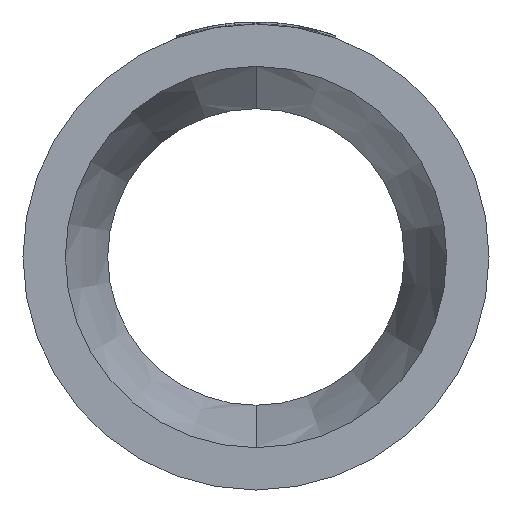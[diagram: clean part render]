
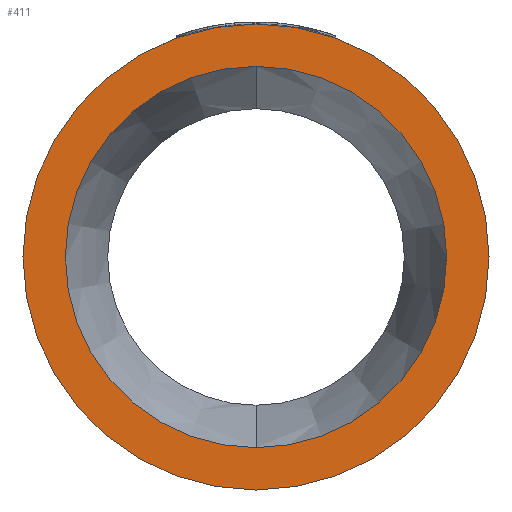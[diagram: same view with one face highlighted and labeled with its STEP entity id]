
A CAD part, left-side view. The second image highlights one B-rep face of the part: STEP entity #411.
In plain terms, the highlighted planar face has unit normal (-1, 0, 0).
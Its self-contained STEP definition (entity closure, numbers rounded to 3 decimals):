
#17 = AXIS2_PLACEMENT_3D ( 'NONE', #1688, #3456, #1672 ) ;
#106 = EDGE_LOOP ( 'NONE', ( #2943, #2965 ) ) ;
#253 = AXIS2_PLACEMENT_3D ( 'NONE', #2054, #2045, #2000 ) ;
#411 = ADVANCED_FACE ( 'NONE', ( #1823, #2680 ), #939, .F. ) ;
#445 = CARTESIAN_POINT ( 'NONE',  ( 0., 0., -55. ) ) ;
#664 = EDGE_CURVE ( 'NONE', #1017, #1558, #3031, .T. ) ;
#683 = EDGE_CURVE ( 'NONE', #1684, #1827, #2707, .T. ) ;
#728 = DIRECTION ( 'NONE',  ( 0., 0., -1. ) ) ;
#734 = DIRECTION ( 'NONE',  ( 1., 0., 0. ) ) ;
#741 = CARTESIAN_POINT ( 'NONE',  ( 0., 45., 0. ) ) ;
#939 = PLANE ( 'NONE',  #3033 ) ;
#1017 = VERTEX_POINT ( 'NONE', #3133 ) ;
#1446 = CARTESIAN_POINT ( 'NONE',  ( 0., 0., -45. ) ) ;
#1473 = DIRECTION ( 'NONE',  ( 0., 0., 1. ) ) ;
#1486 = DIRECTION ( 'NONE',  ( -1., 0., 0. ) ) ;
#1489 = CARTESIAN_POINT ( 'NONE',  ( 0., 0., 0. ) ) ;
#1558 = VERTEX_POINT ( 'NONE', #1446 ) ;
#1593 = DIRECTION ( 'NONE',  ( 0., 0., 1. ) ) ;
#1611 = DIRECTION ( 'NONE',  ( -1., 0., 0. ) ) ;
#1621 = CARTESIAN_POINT ( 'NONE',  ( 0., 0., 0. ) ) ;
#1672 = DIRECTION ( 'NONE',  ( 0., 0., 1. ) ) ;
#1684 = VERTEX_POINT ( 'NONE', #445 ) ;
#1688 = CARTESIAN_POINT ( 'NONE',  ( 0., 0., 0. ) ) ;
#1749 = EDGE_LOOP ( 'NONE', ( #2959, #2957 ) ) ;
#1823 = FACE_BOUND ( 'NONE', #106, .T. ) ;
#1827 = VERTEX_POINT ( 'NONE', #2975 ) ;
#2000 = DIRECTION ( 'NONE',  ( 0., 0., 1. ) ) ;
#2006 = AXIS2_PLACEMENT_3D ( 'NONE', #1489, #1486, #1473 ) ;
#2013 = CIRCLE ( 'NONE', #17, 45. ) ;
#2045 = DIRECTION ( 'NONE',  ( -1., 0., 0. ) ) ;
#2047 = AXIS2_PLACEMENT_3D ( 'NONE', #1621, #1611, #1593 ) ;
#2054 = CARTESIAN_POINT ( 'NONE',  ( 0., 0., 0. ) ) ;
#2095 = EDGE_CURVE ( 'NONE', #1827, #1684, #3154, .T. ) ;
#2680 = FACE_OUTER_BOUND ( 'NONE', #1749, .T. ) ;
#2707 = CIRCLE ( 'NONE', #2006, 55. ) ;
#2943 = ORIENTED_EDGE ( 'NONE', *, *, #664, .F. ) ;
#2957 = ORIENTED_EDGE ( 'NONE', *, *, #683, .T. ) ;
#2959 = ORIENTED_EDGE ( 'NONE', *, *, #2095, .T. ) ;
#2965 = ORIENTED_EDGE ( 'NONE', *, *, #3149, .F. ) ;
#2975 = CARTESIAN_POINT ( 'NONE',  ( 0., 0., 55. ) ) ;
#3031 = CIRCLE ( 'NONE', #2047, 45. ) ;
#3033 = AXIS2_PLACEMENT_3D ( 'NONE', #741, #734, #728 ) ;
#3133 = CARTESIAN_POINT ( 'NONE',  ( 0., 0., 45. ) ) ;
#3149 = EDGE_CURVE ( 'NONE', #1558, #1017, #2013, .T. ) ;
#3154 = CIRCLE ( 'NONE', #253, 55. ) ;
#3456 = DIRECTION ( 'NONE',  ( -1., 0., 0. ) ) ;
